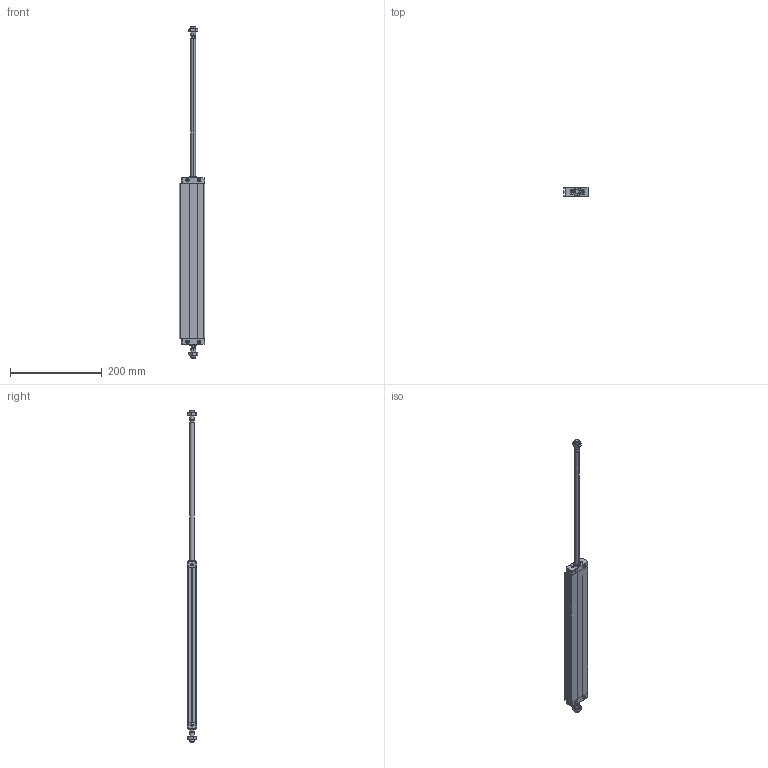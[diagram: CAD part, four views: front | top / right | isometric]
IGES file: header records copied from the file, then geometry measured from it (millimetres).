
Global section: file name: No Iges File Name specified; native system: Autodesk Inventor 2011; preprocessor: AutoDesk Inventor Iges Exporter R2011; author: airolcr1; date: 20101213.152914; units: millimetre
Bounding box: 56.25 x 20 x 722 mm (x, y, z)
Volume: 254569.2 mm3; surface area: 130010.6 mm2
Topology: 6 solids, 6 shells, 282 faces, 664 edges, 392 vertices
Faces by surface type: bspline 117, plane 97, cone 36, cylinder 18, revolution 14
